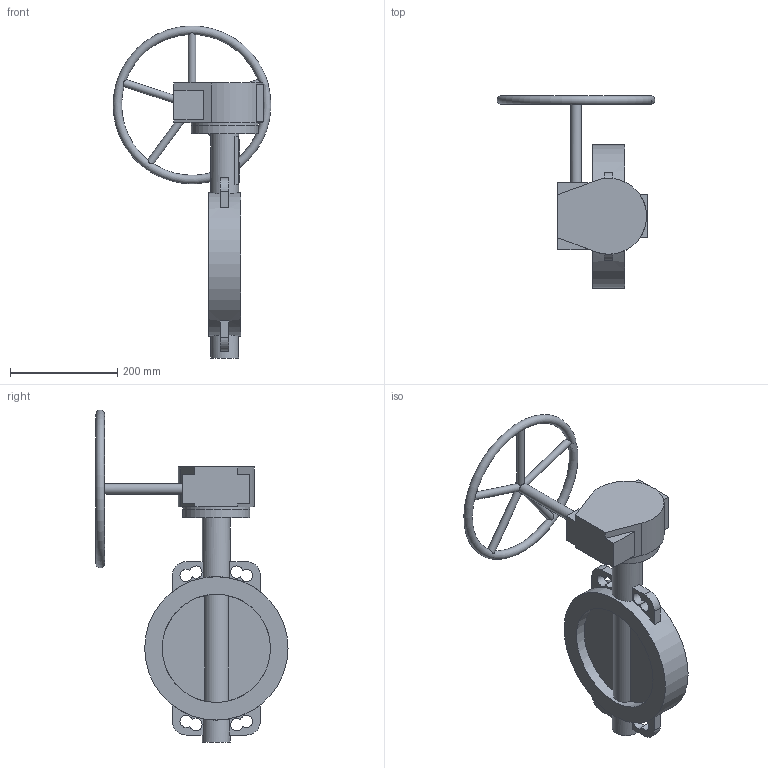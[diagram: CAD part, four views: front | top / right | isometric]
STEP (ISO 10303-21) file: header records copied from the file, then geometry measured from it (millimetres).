
FILE_DESCRIPTION(('STEP AP203'), '1');
FILE_NAME('Çàòâîð 017W.Z(÷óãóí) DN200 PN10_16 ðåäóêòîð', '', ('UNSPECIFIED'), ('UNSPECIFIED'), 'ASCON STEP Converter 1.6', 'ASCON Math Kernel', '');
FILE_SCHEMA(('CONFIG_CONTROL_DESIGN'));
Length unit declared in the file: millimetre
Assembly tree (2 placements, depth 2):
  (unnamed)
    (unnamed)
    (unnamed)
Bounding box: 294.86 x 359 x 620.5 mm (x, y, z)
Volume: 1845416 mm3; surface area: 439692.3 mm2
Topology: 1 solids, 2 shells, 815 faces, 2416 edges, 1556 vertices
Faces by surface type: cylinder 619, plane 195, torus 1
Full cylindrical faces by diameter (mm): 8.5 x4, 12 x4, 14 x5, 20 x2, 22.1 x1, 52 x2, 70 x1, 125 x2, 202.4 x2, 268 x1
Entity records: 30349 total; most frequent: CARTESIAN_POINT 7293, DIRECTION 5292, ORIENTED_EDGE 4704, EDGE_CURVE 2391, AXIS2_PLACEMENT_3D 2122, VERTEX_POINT 1555, CIRCLE 1304, LINE 1048
